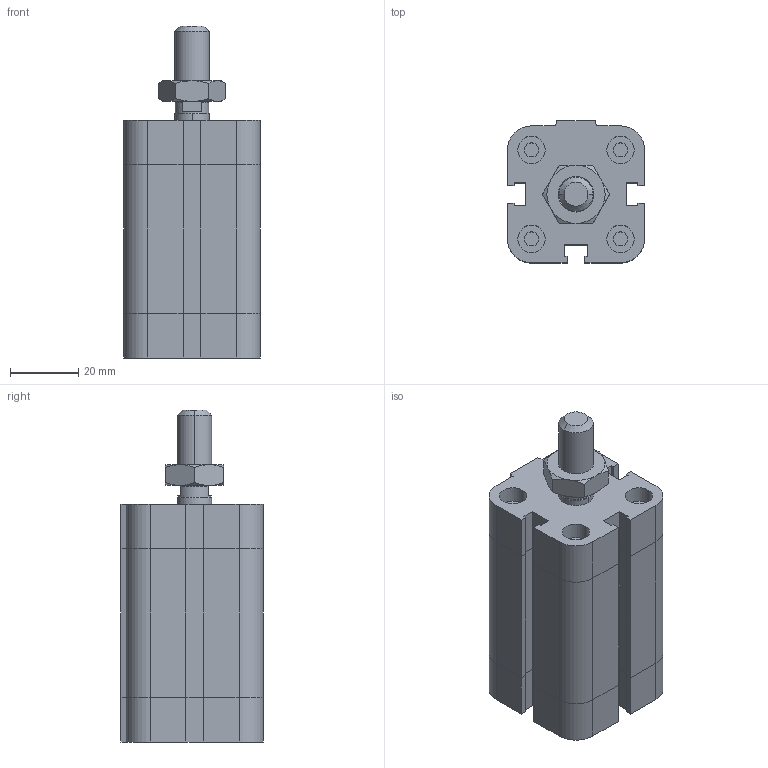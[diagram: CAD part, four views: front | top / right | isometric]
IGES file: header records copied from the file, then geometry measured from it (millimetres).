
Global section: file name: No Iges File Name specified; native system: Autodesk Inventor 2009; preprocessor: AutoDesk Inventor Iges Exporter R2009; author: rivolro1; date: 20081219.161656; units: millimetre
Bounding box: 40 x 41.5 x 97 mm (x, y, z)
Volume: 102058.8 mm3; surface area: 23965 mm2
Topology: 3 solids, 3 shells, 216 faces, 472 edges, 282 vertices
Faces by surface type: plane 121, bspline 37, cylinder 20, cone 20, revolution 18
